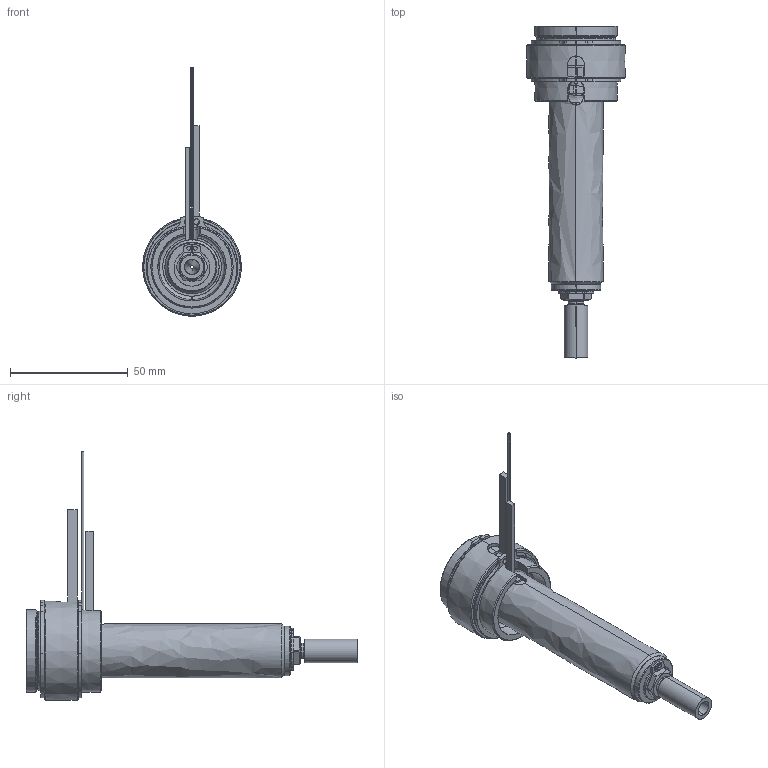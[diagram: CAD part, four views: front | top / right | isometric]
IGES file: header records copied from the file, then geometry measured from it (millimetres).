
Start section: SolidWorks IGES file using analytic representation for surfaces
Global section: file name: C:\Users\luca.EMPAD\Desktop\TEM\UGBE3502-S-A-P-5 [Ød-1.5 P-20 ØC-6.0].IGS; native system: SolidWorks 2012; preprocessor: SolidWorks 2012; author: luca; date: 120330.135646; units: millimetre
Bounding box: 42 x 141 x 105.6 mm (x, y, z)
Surface area: 29301.6 mm2 (no closed solid volume)
Topology: 0 solids, 0 shells, 185 faces, 3494 edges, 3494 vertices
Faces by surface type: revolution 117, bspline 68
